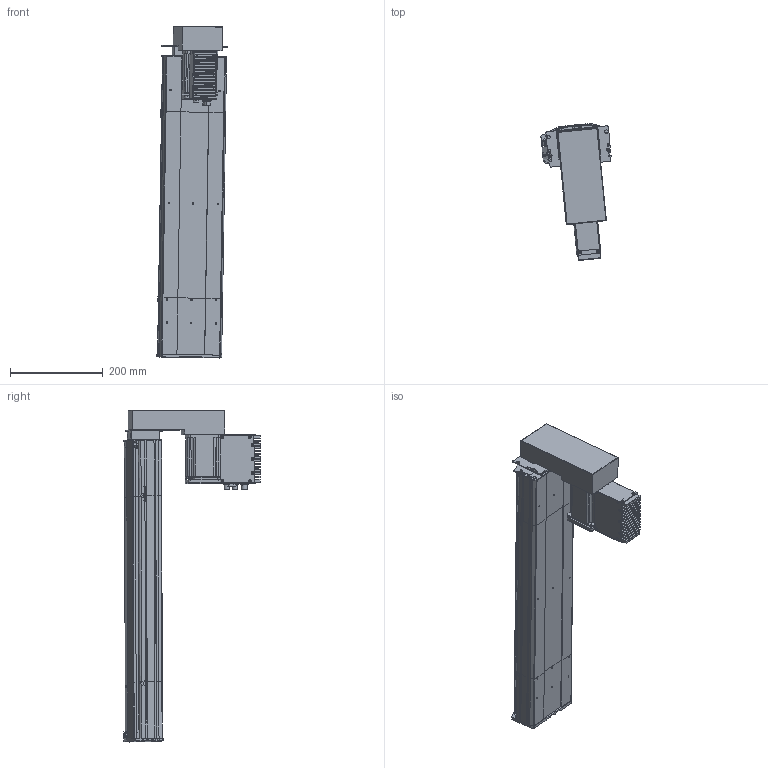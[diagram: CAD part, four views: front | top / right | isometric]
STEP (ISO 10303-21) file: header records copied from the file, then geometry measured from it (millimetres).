
FILE_DESCRIPTION (( 'STEP AP203' ), '1' );
FILE_NAME ('D14 TSH M4 BM L10 S400.STEP', '2012-10-11T12:12:12', ( '' ), ( '' ), 'SwSTEP 2.0', 'SolidWorks 2010', '' );
FILE_SCHEMA (( 'CONFIG_CONTROL_DESIGN' ));
Products named in the file (22): T犨e fond_2; Connecteur rond D10 3cts_2; Tôle Arrière_2; Couvercle_2; Colonnette_2; Radiateur_2; Vis TF 3 torkx_2; couvercle D14 head_Default_2; plaque de bout head D14 BM; Moteur_2; D14 TSH M4 BM L10 S400; T犨e contre le moteur_2; Sub D 9cts_2; Tôle latérale_2; Connecteur rond D12 4cts_2; Moteur 70BLDC90A_2; plaque de  bout tail D14_Default_2; Pièce402; Pièce400; corp head D14_Default_2; plaque de  bout head D14 MD_Default_2; corpl tail D14_Default_2
Assembly tree (49 placements, depth 3):
  D14 TSH M4 BM L10 S400
    corp head D14_Default_2
    Moteur_2
      Vis TF 3 torkx_2  x26
      Moteur 70BLDC90A_2
      Tôle latérale_2  x2
      Connecteur rond D10 3cts_2  x2
      Colonnette_2
      Radiateur_2
      T犨e fond_2
      Tôle Arrière_2
      T犨e contre le moteur_2
      Couvercle_2
      Sub D 9cts_2
      Connecteur rond D12 4cts_2
    corpl tail D14_Default_2
    couvercle D14 head_Default_2  x2
    Pièce402
    Pièce400
    plaque de bout head D14 BM
    plaque de  bout tail D14_Default_2
    plaque de  bout head D14 MD_Default_2
Bounding box: 151.15 x 294.6 x 714.06 mm (x, y, z)
Volume: 3235234.2 mm3; surface area: 926580.8 mm2
Topology: 70 solids, 70 shells, 2415 faces, 6302 edges, 4154 vertices
Faces by surface type: plane 1300, cylinder 851, cone 134, bspline 130
Entity records: 64749 total; most frequent: CARTESIAN_POINT 20867, ORIENTED_EDGE 8562, DIRECTION 8201, EDGE_CURVE 4281, VECTOR 2853, LINE 2853, VERTEX_POINT 2828, AXIS2_PLACEMENT_3D 2674
